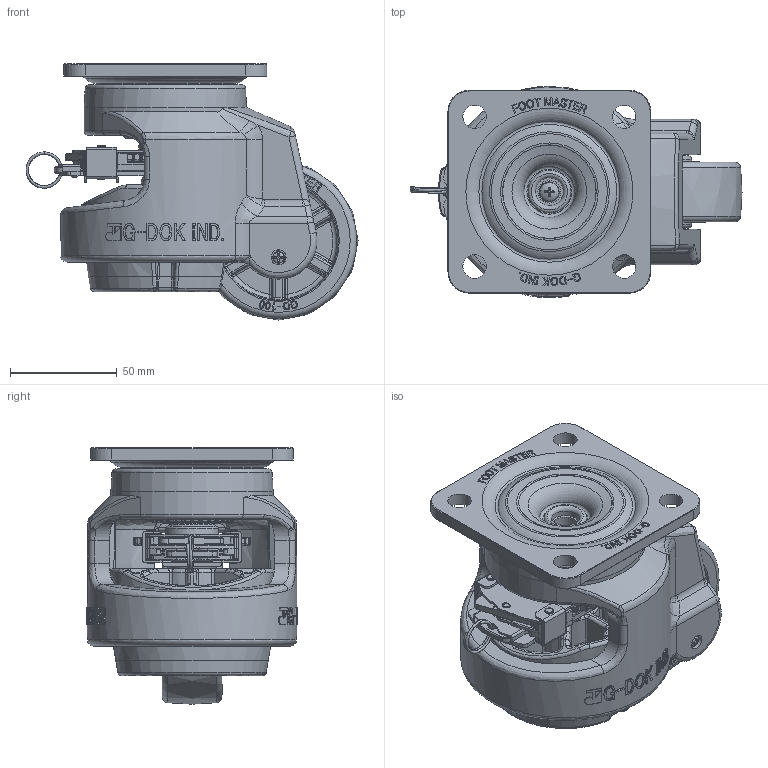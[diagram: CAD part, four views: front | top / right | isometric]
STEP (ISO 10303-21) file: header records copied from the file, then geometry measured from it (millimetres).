
FILE_DESCRIPTION(/* description */ (''),/* implementation_level */ '2;1');
FILE_NAME(/* name */ '\\192.168.10.38\지덕공유\1.기술연구소\2.연구개발 진행중\119.GDR-100 개발건_2025.01.23\3d\홈페이지용\1\2\1.GDR-100-F-NYN_Shrinkwrap_1.stp',/* time_stamp */ '2025-08-14T19:08:40+09:00',/* author */ ('admin'),/* organization */ (''),/* preprocessor_version */ 'ST-DEVELOPER v18.1',/* originating_system */ 'Autodesk Inventor 2021',/* authorisation */ '');
FILE_SCHEMA (('AUTOMOTIVE_DESIGN { 1 0 10303 214 3 1 1 }'));
Length unit declared in the file: millimetre
Products named in the file (1): 1.GDR-100-F-NYN_Shrinkwrap_1
Bounding box: 155.47 x 99 x 120 mm (x, y, z)
Volume: 602220.1 mm3; surface area: 136496.3 mm2
Topology: 1 solids, 17 shells, 4115 faces, 10404 edges, 6420 vertices
Faces by surface type: bspline 1258, plane 1257, cylinder 873, torus 349, cone 203, sphere 175
Full cylindrical faces by diameter (mm): 2 x8, 2.3 x4, 2.5 x2, 2.7 x4, 3 x2, 3.5 x2, 4 x9, 4.3 x2, 5.5 x2, 6.9 x2, 10.7 x1, 11 x4, 13 x1, 20 x3, 20.704 x2, 39 x1, 64.954 x1
Entity records: 154747 total; most frequent: CARTESIAN_POINT 58387, ORIENTED_EDGE 20738, DIRECTION 17198, EDGE_CURVE 10369, AXIS2_PLACEMENT_3D 6524, VERTEX_POINT 6420, EDGE_LOOP 4306, LINE 4150
